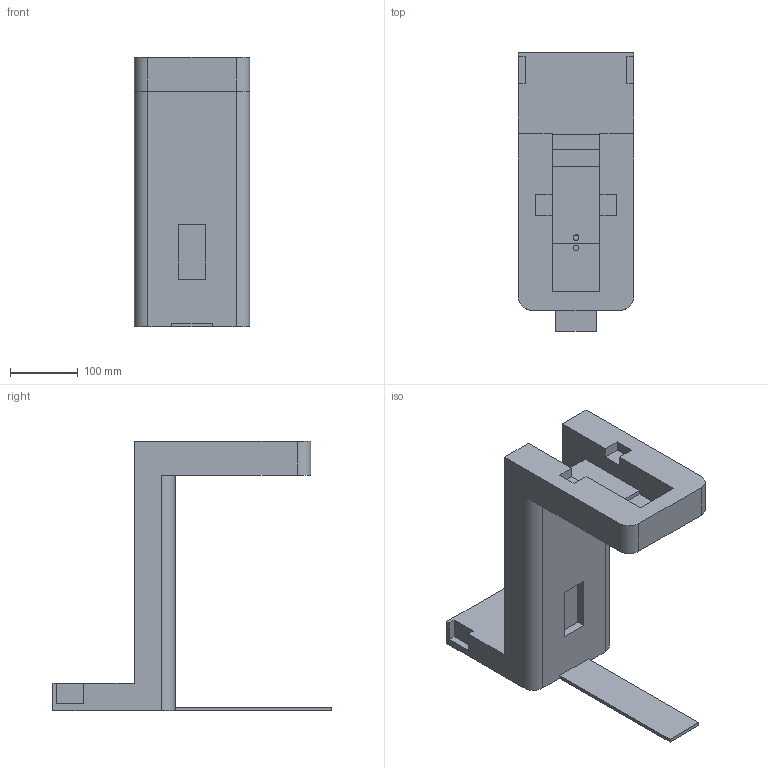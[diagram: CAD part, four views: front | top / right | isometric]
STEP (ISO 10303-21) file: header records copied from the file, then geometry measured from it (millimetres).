
FILE_DESCRIPTION(('HOOPS Exchange Step'),'2;1');
FILE_NAME('/private/var/mobile/Containers/Data/Application/DD97EE40-877A-4DB0-A56E-7A8C64E57733/tmp/export/temp_export','2025-11-06T20:57:39+08:00',('mobile'),('Shapr3D Limited'),'HOOPS Exchange 2025.5','Shapr3D','Authorized');
FILE_SCHEMA( ('AP242_MANAGED_MODEL_BASED_3D_ENGINEERING_MIM_LF {1 0 10303 442 1 1 4}') );
Length unit declared in the file: millimetre
Products named in the file (1): 实体  06
Bounding box: 170 x 410 x 396.66 mm (x, y, z)
Volume: 3963855 mm3; surface area: 513959.2 mm2
Topology: 1 solids, 3 shells, 74 faces, 204 edges, 136 vertices
Faces by surface type: plane 68, cylinder 5, bspline 1
Full cylindrical faces by diameter (mm): 8.5 x1
Entity records: 2561 total; most frequent: CARTESIAN_POINT 622, ORIENTED_EDGE 408, DIRECTION 363, EDGE_CURVE 204, VECTOR 189, LINE 189, VERTEX_POINT 136, AXIS2_PLACEMENT_3D 87
